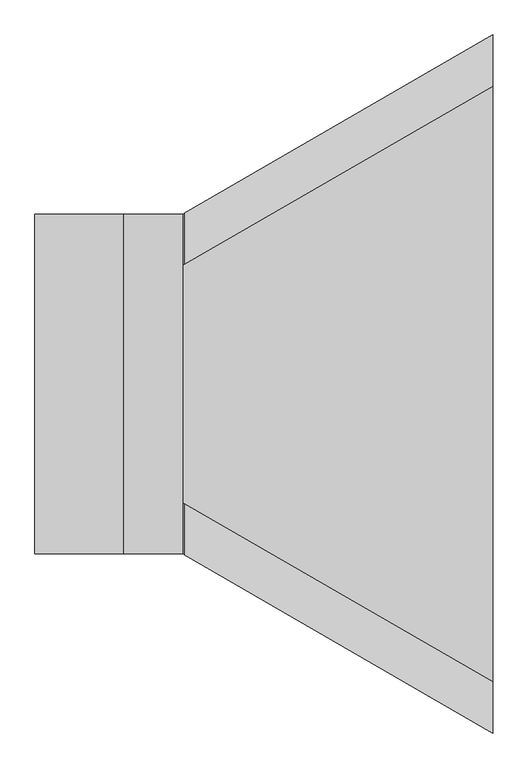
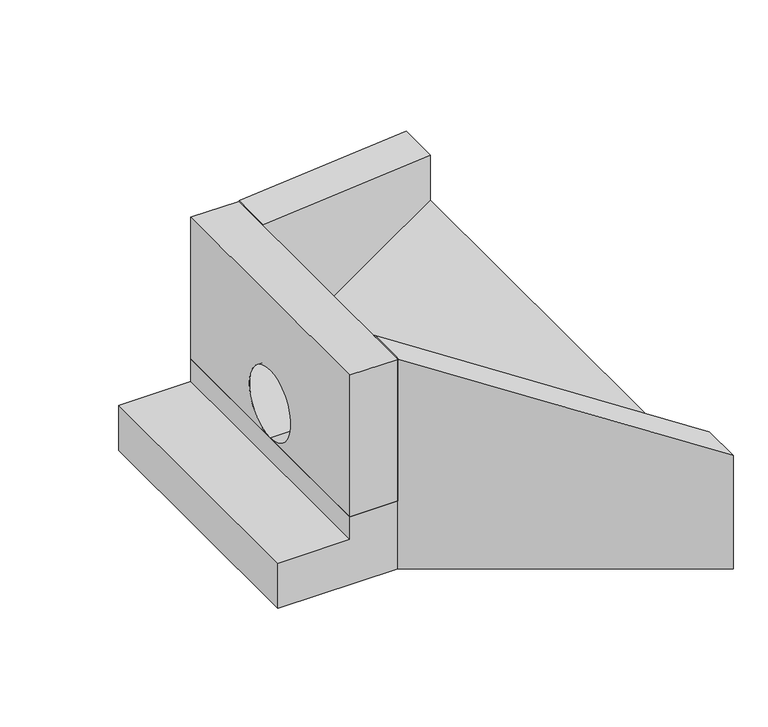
"""IFC4 building model written with IfcOpenShell, lengths in millimetres: furniture geometry, Alcantarilla : Trinidad3_250mm."""

from ifc_helpers import new_model, si_unit, frame, origin, place, context, project, spatial, polyline, circle_curve, faceted_brep, source, transform, mapped, element, save
from ifc_brep_helpers import plane_surface, revolved_surface, advanced_brep


def furniture_783d1c30(model_context):
    return source(origin(), model_context, "Body", "SolidModel", [
        advanced_brep(
        [(1000.0, -575.0, 625.0), (1000.0, 575.0, 625.0), (800.0, 575.0, 625.0), (800.0, -575.0, 625.0), (1000.0, 575.0, 0.0), (1000.0, 0.0, 0.0), (1000.0, -575.0, 0.0), (800.0, -575.0, 0.0), (800.0, 0.0, 0.0), (800.0, 575.0, 0.0), (800.0, 0.0, 300.0), (1000.0, 0.0, 300.0)],
        [
            (0, 1),
            (1, 2),
            (2, 3),
            (3, 0),
            (4, 5),
            (5, 6),
            (6, 7),
            (7, 8),
            (8, 9),
            (9, 4),
            (3, 7),
            (6, 0),
            (2, 9),
            (8, 10, circle_curve(frame((800.0, 0.0, 150.0), z_axis=(1.0, 0.0, 0.0), x_axis=(0.0, -1.0, 0.0)), 150.0)),
            (10, 8, circle_curve(frame((800.0, 0.0, 150.0), z_axis=(1.0, 0.0, 0.0), x_axis=(0.0, -1.0, 0.0)), 150.0)),
            (1, 4),
            (5, 11, circle_curve(frame((1000.0, 0.0, 150.0), z_axis=(-1.0, 0.0, 0.0), x_axis=(0.0, -1.0, 0.0)), 150.0)),
            (11, 5, circle_curve(frame((1000.0, 0.0, 150.0), z_axis=(-1.0, 0.0, 0.0), x_axis=(0.0, -1.0, 0.0)), 150.0)),
            (10, 11),
            (5, 8),
        ],
        [
            plane_surface(frame((800.0, -575.0, 625.0), z_axis=(0.0, 0.0, 1.0), x_axis=(-1.0, 0.0, 0.0))),
            plane_surface(frame((800.0, -575.0, 0.0), z_axis=(0.0, 0.0, -1.0), x_axis=(1.0, 0.0, 0.0))),
            plane_surface(frame((1000.0, -575.0, 625.0), z_axis=(0.0, -1.0, 0.0), x_axis=(0.0, 0.0, -1.0))),
            plane_surface(frame((800.0, -575.0, 625.0), z_axis=(-1.0, 0.0, 0.0), x_axis=(0.0, 0.0, -1.0))),
            plane_surface(frame((800.0, 575.0, 625.0), z_axis=(0.0, 1.0, 0.0), x_axis=(0.0, 0.0, -1.0))),
            plane_surface(frame((1000.0, 575.0, 625.0), z_axis=(1.0, 0.0, 0.0), x_axis=(0.0, 0.0, -1.0))),
            revolved_surface(polyline([(1000.0, -150.0, 150.0), (800.0, -150.0, 150.0)]), (50.6144548, 0.0, 150.0), (1.0, 0.0, 0.0)),
        ],
        [
            (0, [[1, 2, 3, 4]]),
            (1, [[5, 6, 7, 8, 9, 10]]),
            (2, [[11, -7, 12, -4]]),
            (3, [[13, -9, 14, 15, -8, -11, -3]]),
            (4, [[16, -10, -13, -2]]),
            (5, [[-12, -6, 17, 18, -5, -16, -1]]),
            (6, [[-15, 19, -17, 20]]),
            (6, [[-18, -19, -14, -20]]),
        ],
    ),
        faceted_brep([(1000.0, -575.0, 625.0), (1005.0, -577.8867513, 625.0), (1005.0, -404.6816706, 625.0), (1000.0, -401.7949192, 625.0), (1000.0, -401.7949192, 0.0), (1000.0, -575.0, 0.0), (2050.0, -1008.0127019, 200.0), (2050.0, -1008.0127019, 0.0), (2050.0, -1181.2177826, 200.0), (1000.0, -575.0, -300.0), (2050.0, -1181.2177826, -300.0), (2050.0, 1181.2177826, -300.0), (2050.0, 1181.2177826, 200.0), (2050.0, 1008.0127019, 200.0), (2050.0, 1008.0127019, 0.0), (1000.0, 575.0, 625.0), (1000.0, 401.7949192, 625.0), (1005.0, 404.6816706, 625.0), (1005.0, 577.8867513, 625.0), (1000.0, 575.0, 0.0), (1000.0, 401.7949192, 0.0), (1000.0, 575.0, -300.0), (800.0, 575.0, 0.0), (800.0, -575.0, 0.0), (1000.0, -401.7949192, -100.0), (1000.0, 401.7949192, -100.0), (1900.0, 921.4101615, -100.0), (1900.0, -921.4101615, -100.0), (800.0, -575.0, -100.0), (500.0, -575.0, -100.0), (500.0, -575.0, -300.0), (800.0, 575.0, -100.0), (500.0, 575.0, -300.0), (500.0, 575.0, -100.0), (1000.0, -401.7949192, -300.0), (1900.0, -921.4101615, -300.0), (1900.0, 921.4101615, -300.0), (1000.0, 401.7949192, -300.0)], [[[0, 1, 2, 3]], [[3, 4, 5, 0]], [[2, 6, 7, 4, 3]], [[1, 8, 6, 2]], [[0, 5, 9, 10, 8, 1]], [[6, 8, 10, 11, 12, 13, 14, 7]], [[15, 16, 17, 18]], [[15, 19, 20, 16]], [[16, 20, 14, 13, 17]], [[17, 13, 12, 18]], [[18, 12, 11, 21, 19, 15]], [[5, 4, 7, 14, 20, 19, 22, 23]], [[24, 25, 26, 27]], [[23, 28, 29, 30, 9, 5]], [[22, 31, 28, 23]], [[21, 32, 33, 31, 22, 19]], [[29, 28, 31, 33]], [[11, 10, 9, 30, 32, 21], [34, 35, 36, 37]], [[33, 32, 30, 29]], [[34, 24, 27, 35]], [[35, 27, 26, 36]], [[36, 26, 25, 37]], [[37, 25, 24, 34]]]),
    ])


if __name__ == "__main__":
    model = new_model("IFC4")
    model_context = context("Model", 3, world=origin())
    ifc_project = project(units=[si_unit("LENGTHUNIT", "METRE", prefix="MILLI")], contexts=[model_context])
    site = spatial("IfcSite", under=ifc_project)
    building = spatial("IfcBuilding", under=site)
    placement = place(None, origin())
    furniture_shape = furniture_783d1c30(model_context)
    element("IfcFurniture", 1, ObjectType="Alcantarilla : Trinidad3_250mm", at=placement, inside=building, context=model_context, shape_type="MappedRepresentation", body=[
        mapped(furniture_shape, transform((0.0, 0.0, 0.0), x_axis=(1.0, 0.0, 0.0), y_axis=(0.0, 1.0, 0.0), z_axis=(0.0, 0.0, 1.0))),
    ])
    save(model, "model.ifc")
